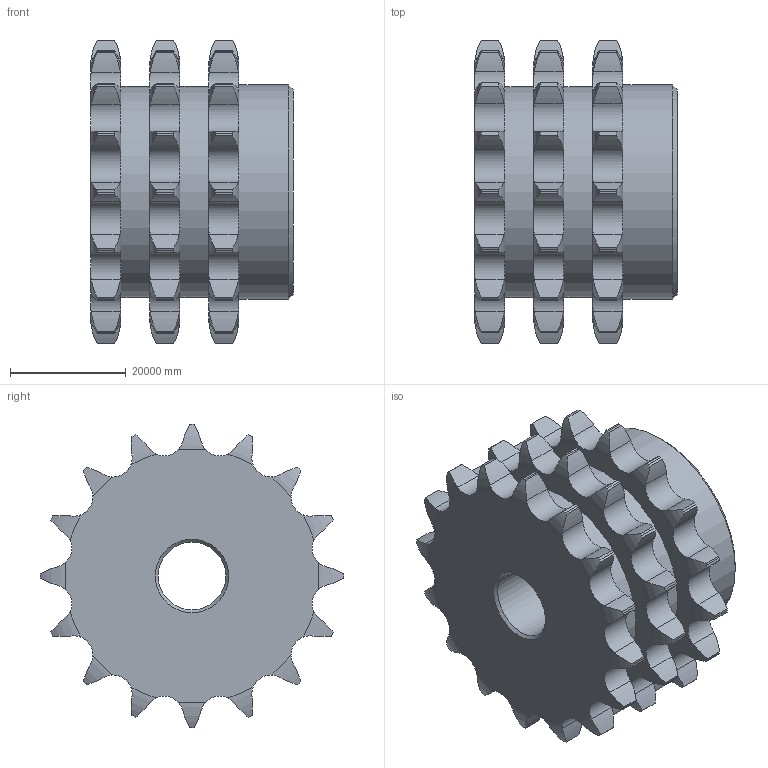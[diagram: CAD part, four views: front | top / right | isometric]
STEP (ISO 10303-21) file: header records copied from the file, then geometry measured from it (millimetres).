
FILE_DESCRIPTION(/* description */ (''),/* implementation_level */ '2;1');
FILE_NAME(/* name */ 'C:\Users\stagistaCAD\Desktop\10309016.stp',/* time_stamp */ '2018-06-12T10:38:21+02:00',/* author */ ('stagistacad'),/* organization */ (''),/* preprocessor_version */ 'ST-DEVELOPER v15.6',/* originating_system */ 'Autodesk Inventor 2015',/* authorisation */ '');
FILE_SCHEMA (('AUTOMOTIVE_DESIGN { 1 0 10303 214 3 1 1 }'));
Length unit declared in the file: millimetre
Products named in the file (1): 10309016
Bounding box: 35000 x 52459.06 x 52470 mm (x, y, z)
Volume: 42440513431746.9 mm3; surface area: 12302733274 mm2
Topology: 1 solids, 1 shells, 329 faces, 963 edges, 641 vertices
Faces by surface type: cylinder 223, torus 96, plane 7, cone 3
Full cylindrical faces by diameter (mm): 11700 x1, 36470 x2, 37000 x1
Entity records: 14139 total; most frequent: CARTESIAN_POINT 6103, ORIENTED_EDGE 1912, DIRECTION 1393, EDGE_CURVE 956, VERTEX_POINT 641, AXIS2_PLACEMENT_3D 587, B_SPLINE_CURVE_WITH_KNOTS 480, EDGE_LOOP 343
